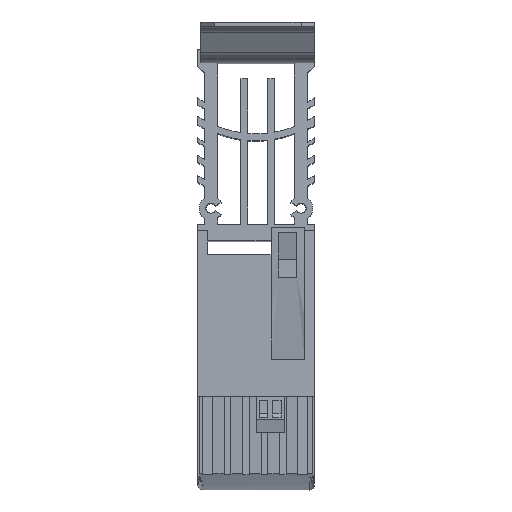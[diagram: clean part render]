
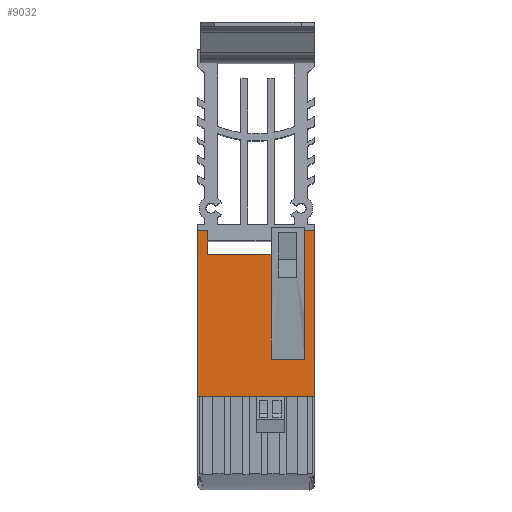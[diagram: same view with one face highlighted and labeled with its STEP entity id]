
A CAD part, top view. The second image highlights one B-rep face of the part: STEP entity #9032.
In plain terms, the highlighted planar face has unit normal (0, 0, 1).
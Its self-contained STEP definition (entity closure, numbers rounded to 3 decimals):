
#167=DIRECTION('',(-1.,0.,0.));
#168=VECTOR('',#167,3.);
#169=CARTESIAN_POINT('',(35.,77.748,4.5));
#170=LINE('',#169,#168);
#2418=DIRECTION('',(0.,-1.,0.));
#2419=VECTOR('',#2418,7.);
#2420=CARTESIAN_POINT('',(32.,77.748,4.5));
#2421=LINE('',#2420,#2419);
#2426=DIRECTION('',(-1.,0.,0.));
#2427=VECTOR('',#2426,8.5);
#2428=CARTESIAN_POINT('',(26.,28.248,4.5));
#2429=LINE('',#2428,#2427);
#2430=DIRECTION('',(-1.,0.,0.));
#2431=VECTOR('',#2430,17.5);
#2432=CARTESIAN_POINT('',(17.5,28.248,4.5));
#2433=LINE('',#2432,#2431);
#2434=DIRECTION('',(0.,1.,0.));
#2435=VECTOR('',#2434,49.5);
#2436=CARTESIAN_POINT('',(0.,28.248,4.5));
#2437=LINE('',#2436,#2435);
#2438=DIRECTION('',(0.,-1.,0.));
#2439=VECTOR('',#2438,21.5);
#2440=CARTESIAN_POINT('',(23.5,70.748,4.5));
#2441=LINE('',#2440,#2439);
#2442=DIRECTION('',(-1.,0.,0.));
#2443=VECTOR('',#2442,1.5);
#2444=CARTESIAN_POINT('',(23.5,49.248,4.5));
#2445=LINE('',#2444,#2443);
#2446=DIRECTION('',(0.,-1.,0.));
#2447=VECTOR('',#2446,10.);
#2448=CARTESIAN_POINT('',(22.,49.248,4.5));
#2449=LINE('',#2448,#2447);
#2450=DIRECTION('',(-1.,0.,0.));
#2451=VECTOR('',#2450,10.);
#2452=CARTESIAN_POINT('',(32.,39.248,4.5));
#2453=LINE('',#2452,#2451);
#2454=DIRECTION('',(0.,-1.,0.));
#2455=VECTOR('',#2454,10.);
#2456=CARTESIAN_POINT('',(32.,49.248,4.5));
#2457=LINE('',#2456,#2455);
#2458=DIRECTION('',(-1.,0.,0.));
#2459=VECTOR('',#2458,1.5);
#2460=CARTESIAN_POINT('',(32.,49.248,4.5));
#2461=LINE('',#2460,#2459);
#2462=DIRECTION('',(0.,-1.,0.));
#2463=VECTOR('',#2462,21.5);
#2464=CARTESIAN_POINT('',(30.5,70.748,4.5));
#2465=LINE('',#2464,#2463);
#2466=DIRECTION('',(0.,-1.,0.));
#2467=VECTOR('',#2466,49.5);
#2468=CARTESIAN_POINT('',(35.,77.748,4.5));
#2469=LINE('',#2468,#2467);
#2470=DIRECTION('',(-1.,0.,0.));
#2471=VECTOR('',#2470,9.);
#2472=CARTESIAN_POINT('',(35.,28.248,4.5));
#2473=LINE('',#2472,#2471);
#3672=DIRECTION('',(-1.,0.,0.));
#3673=VECTOR('',#3672,20.5);
#3674=CARTESIAN_POINT('',(23.5,70.748,4.5));
#3675=LINE('',#3674,#3673);
#3696=DIRECTION('',(-1.,0.,0.));
#3697=VECTOR('',#3696,1.5);
#3698=CARTESIAN_POINT('',(32.,70.748,4.5));
#3699=LINE('',#3698,#3697);
#3900=DIRECTION('',(0.,1.,0.));
#3901=VECTOR('',#3900,7.);
#3902=CARTESIAN_POINT('',(3.,70.748,4.5));
#3903=LINE('',#3902,#3901);
#3924=DIRECTION('',(-1.,0.,0.));
#3925=VECTOR('',#3924,3.);
#3926=CARTESIAN_POINT('',(3.,77.748,4.5));
#3927=LINE('',#3926,#3925);
#4491=CARTESIAN_POINT('',(0.,28.248,4.5));
#4492=CARTESIAN_POINT('',(0.,77.748,4.5));
#4493=VERTEX_POINT('',#4491);
#4494=VERTEX_POINT('',#4492);
#4531=CARTESIAN_POINT('',(35.,77.748,4.5));
#4532=CARTESIAN_POINT('',(35.,28.248,4.5));
#4533=VERTEX_POINT('',#4531);
#4534=VERTEX_POINT('',#4532);
#4547=CARTESIAN_POINT('',(32.,77.748,4.5));
#4548=CARTESIAN_POINT('',(32.,70.748,4.5));
#4549=VERTEX_POINT('',#4547);
#4550=VERTEX_POINT('',#4548);
#4551=CARTESIAN_POINT('',(3.,77.748,4.5));
#4552=VERTEX_POINT('',#4551);
#4553=CARTESIAN_POINT('',(3.,70.748,4.5));
#4554=VERTEX_POINT('',#4553);
#5599=CARTESIAN_POINT('',(22.,49.248,4.5));
#5600=CARTESIAN_POINT('',(22.,39.248,4.5));
#5601=VERTEX_POINT('',#5599);
#5602=VERTEX_POINT('',#5600);
#5603=CARTESIAN_POINT('',(23.5,49.248,4.5));
#5604=VERTEX_POINT('',#5603);
#5605=CARTESIAN_POINT('',(32.,39.248,4.5));
#5606=VERTEX_POINT('',#5605);
#5607=CARTESIAN_POINT('',(23.5,70.748,4.5));
#5608=VERTEX_POINT('',#5607);
#5609=CARTESIAN_POINT('',(30.5,70.748,4.5));
#5610=CARTESIAN_POINT('',(30.5,49.248,4.5));
#5611=VERTEX_POINT('',#5609);
#5612=VERTEX_POINT('',#5610);
#5613=CARTESIAN_POINT('',(32.,49.248,4.5));
#5614=VERTEX_POINT('',#5613);
#5647=CARTESIAN_POINT('',(26.,28.248,4.5));
#5649=VERTEX_POINT('',#5647);
#5653=CARTESIAN_POINT('',(17.5,28.248,4.5));
#5654=VERTEX_POINT('',#5653);
#8993=CARTESIAN_POINT('',(17.5,52.998,4.5));
#8994=DIRECTION('',(0.,0.,1.));
#8995=DIRECTION('',(0.,-1.,0.));
#8996=AXIS2_PLACEMENT_3D('',#8993,#8994,#8995);
#8997=PLANE('',#8996);
#8999=ORIENTED_EDGE('',*,*,#8998,.T.);
#9001=ORIENTED_EDGE('',*,*,#9000,.T.);
#9002=ORIENTED_EDGE('',*,*,#5670,.T.);
#9004=ORIENTED_EDGE('',*,*,#9003,.F.);
#9006=ORIENTED_EDGE('',*,*,#9005,.F.);
#9008=ORIENTED_EDGE('',*,*,#9007,.F.);
#9010=ORIENTED_EDGE('',*,*,#9009,.T.);
#9012=ORIENTED_EDGE('',*,*,#9011,.T.);
#9014=ORIENTED_EDGE('',*,*,#9013,.T.);
#9016=ORIENTED_EDGE('',*,*,#9015,.F.);
#9018=ORIENTED_EDGE('',*,*,#9017,.F.);
#9020=ORIENTED_EDGE('',*,*,#9019,.T.);
#9022=ORIENTED_EDGE('',*,*,#9021,.F.);
#9024=ORIENTED_EDGE('',*,*,#9023,.F.);
#9025=ORIENTED_EDGE('',*,*,#8985,.F.);
#9026=ORIENTED_EDGE('',*,*,#5942,.F.);
#9027=ORIENTED_EDGE('',*,*,#5846,.T.);
#9029=ORIENTED_EDGE('',*,*,#9028,.T.);
#9030=EDGE_LOOP('',(#8999,#9001,#9002,#9004,#9006,#9008,#9010,#9012,#9014,#9016,
#9018,#9020,#9022,#9024,#9025,#9026,#9027,#9029));
#9031=FACE_OUTER_BOUND('',#9030,.F.);
#5670=EDGE_CURVE('',#4493,#4494,#2437,.T.);
#5846=EDGE_CURVE('',#4533,#4534,#2469,.T.);
#5942=EDGE_CURVE('',#4533,#4549,#170,.T.);
#8985=EDGE_CURVE('',#4549,#4550,#2421,.T.);
#8998=EDGE_CURVE('',#5649,#5654,#2429,.T.);
#9000=EDGE_CURVE('',#5654,#4493,#2433,.T.);
#9003=EDGE_CURVE('',#4552,#4494,#3927,.T.);
#9005=EDGE_CURVE('',#4554,#4552,#3903,.T.);
#9007=EDGE_CURVE('',#5608,#4554,#3675,.T.);
#9009=EDGE_CURVE('',#5608,#5604,#2441,.T.);
#9011=EDGE_CURVE('',#5604,#5601,#2445,.T.);
#9013=EDGE_CURVE('',#5601,#5602,#2449,.T.);
#9015=EDGE_CURVE('',#5606,#5602,#2453,.T.);
#9017=EDGE_CURVE('',#5614,#5606,#2457,.T.);
#9019=EDGE_CURVE('',#5614,#5612,#2461,.T.);
#9021=EDGE_CURVE('',#5611,#5612,#2465,.T.);
#9023=EDGE_CURVE('',#4550,#5611,#3699,.T.);
#9028=EDGE_CURVE('',#4534,#5649,#2473,.T.);
#9032=ADVANCED_FACE('',(#9031),#8997,.T.);
